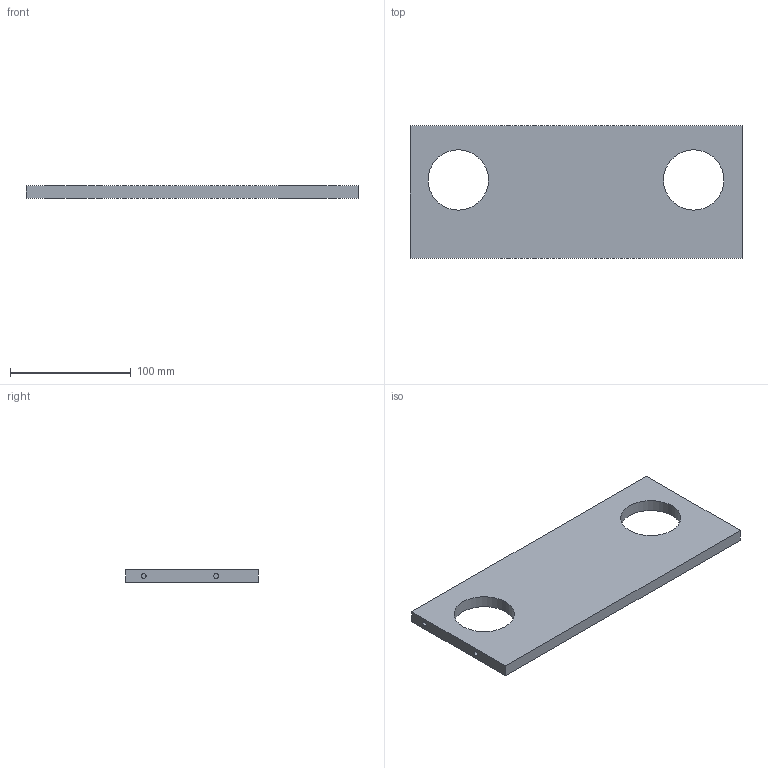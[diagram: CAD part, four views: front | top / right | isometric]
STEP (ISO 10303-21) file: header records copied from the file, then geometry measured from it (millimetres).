
FILE_DESCRIPTION(('FreeCAD Model'),'2;1');
FILE_NAME( '/home/bluelambda/Documents/Arcade/cad/step/marquee_bottom.step', '2016-04-10T12:53:22',('Author'),(''), 'Open CASCADE STEP processor 6.9','FreeCAD','Unknown');
FILE_SCHEMA(('AUTOMOTIVE_DESIGN { 1 0 10303 214 1 1 1 1 }'));
Length unit declared in the file: millimetre
Products named in the file (1): marquee_bottom
Bounding box: 275 x 110 x 10 mm (x, y, z)
Volume: 262727.4 mm3; surface area: 63990.3 mm2
Topology: 1 solids, 1 shells, 16 faces, 30 edges, 20 vertices
Faces by surface type: plane 10, cylinder 6
Full cylindrical faces by diameter (mm): 4 x4, 50 x2
Entity records: 837 total; most frequent: CARTESIAN_POINT 151, DIRECTION 132, LINE 66, VECTOR 66, ORIENTED_EDGE 60, PCURVE 60, DEFINITIONAL_REPRESENTATION 60, EDGE_CURVE 30
